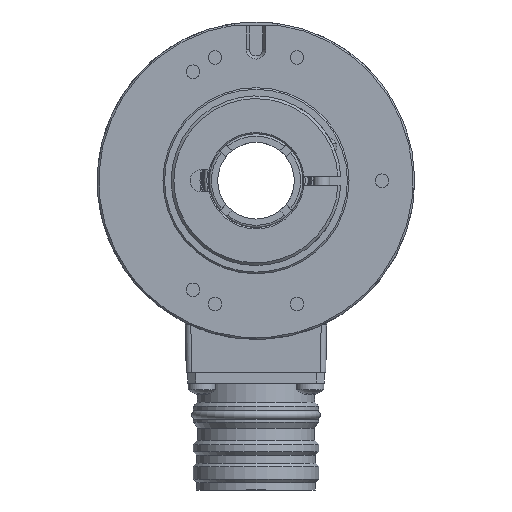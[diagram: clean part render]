
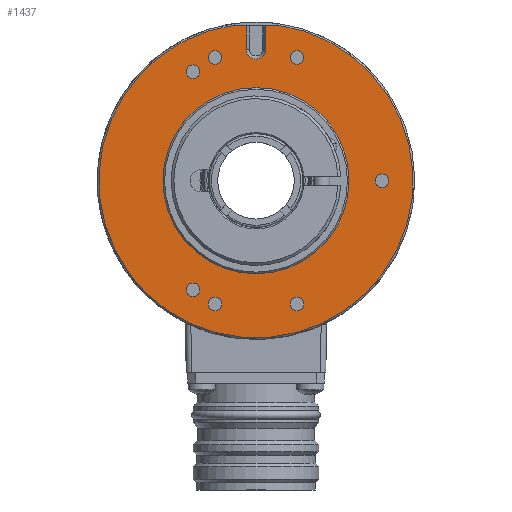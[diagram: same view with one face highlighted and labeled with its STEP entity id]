
A CAD part, left-side view. The second image highlights one B-rep face of the part: STEP entity #1437.
In plain terms, the highlighted planar face has unit normal (-1, 0, 0).
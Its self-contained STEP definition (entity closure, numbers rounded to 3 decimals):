
#1437 = ADVANCED_FACE( '', ( #3368, #3369, #3370, #3371, #3372, #3373, #3374, #3375, #3376 ), #3377, .T. );
#3368 = FACE_OUTER_BOUND( '', #8642, .T. );
#3369 = FACE_BOUND( '', #8643, .T. );
#3370 = FACE_BOUND( '', #8644, .T. );
#3371 = FACE_BOUND( '', #8645, .T. );
#3372 = FACE_BOUND( '', #8646, .T. );
#3373 = FACE_BOUND( '', #8647, .T. );
#3374 = FACE_BOUND( '', #8648, .T. );
#3375 = FACE_BOUND( '', #8649, .T. );
#3376 = FACE_BOUND( '', #8650, .T. );
#3377 = PLANE( '', #8651 );
#8642 = EDGE_LOOP( '', ( #16163, #16164, #16165, #16166, #16167, #16168, #16169, #16170 ) );
#8643 = EDGE_LOOP( '', ( #16171 ) );
#8644 = EDGE_LOOP( '', ( #16172 ) );
#8645 = EDGE_LOOP( '', ( #16173 ) );
#8646 = EDGE_LOOP( '', ( #16174 ) );
#8647 = EDGE_LOOP( '', ( #16175 ) );
#8648 = EDGE_LOOP( '', ( #16176 ) );
#8649 = EDGE_LOOP( '', ( #16177 ) );
#8650 = EDGE_LOOP( '', ( #16178 ) );
#8651 = AXIS2_PLACEMENT_3D( '', #16179, #16180, #16181 );
#16163 = ORIENTED_EDGE( '', *, *, #21126, .T. );
#16164 = ORIENTED_EDGE( '', *, *, #21127, .T. );
#16165 = ORIENTED_EDGE( '', *, *, #20062, .F. );
#16166 = ORIENTED_EDGE( '', *, *, #21128, .F. );
#16167 = ORIENTED_EDGE( '', *, *, #20171, .F. );
#16168 = ORIENTED_EDGE( '', *, *, #21129, .T. );
#16169 = ORIENTED_EDGE( '', *, *, #21130, .T. );
#16170 = ORIENTED_EDGE( '', *, *, #21131, .T. );
#16171 = ORIENTED_EDGE( '', *, *, #21132, .F. );
#16172 = ORIENTED_EDGE( '', *, *, #21133, .T. );
#16173 = ORIENTED_EDGE( '', *, *, #21134, .T. );
#16174 = ORIENTED_EDGE( '', *, *, #21135, .T. );
#16175 = ORIENTED_EDGE( '', *, *, #21136, .T. );
#16176 = ORIENTED_EDGE( '', *, *, #20398, .T. );
#16177 = ORIENTED_EDGE( '', *, *, #21137, .T. );
#16178 = ORIENTED_EDGE( '', *, *, #20202, .T. );
#16179 = CARTESIAN_POINT( '', ( 15., -0.002, 25.897 ) );
#16180 = DIRECTION( '', ( -1., 0., 0. ) );
#16181 = DIRECTION( '', ( 0., 1., 0. ) );
#20062 = EDGE_CURVE( '', #22615, #22610, #22617, .T. );
#20171 = EDGE_CURVE( '', #22800, #22796, #22802, .T. );
#20202 = EDGE_CURVE( '', #22853, #22853, #22854, .T. );
#20398 = EDGE_CURVE( '', #23179, #23179, #23180, .T. );
#21126 = EDGE_CURVE( '', #24294, #24295, #24296, .T. );
#21127 = EDGE_CURVE( '', #24295, #22610, #24297, .T. );
#21128 = EDGE_CURVE( '', #22796, #22615, #24298, .T. );
#21129 = EDGE_CURVE( '', #22800, #24299, #24300, .T. );
#21130 = EDGE_CURVE( '', #24299, #24301, #24302, .T. );
#21131 = EDGE_CURVE( '', #24301, #24294, #24303, .T. );
#21132 = EDGE_CURVE( '', #24304, #24304, #24305, .T. );
#21133 = EDGE_CURVE( '', #24306, #24306, #24307, .T. );
#21134 = EDGE_CURVE( '', #24308, #24308, #24309, .T. );
#21135 = EDGE_CURVE( '', #24310, #24310, #24311, .T. );
#21136 = EDGE_CURVE( '', #24312, #24312, #24313, .T. );
#21137 = EDGE_CURVE( '', #24314, #24314, #24315, .T. );
#22610 = VERTEX_POINT( '', #26706 );
#22615 = VERTEX_POINT( '', #26713 );
#22617 = LINE( '', #26716, #26717 );
#22796 = VERTEX_POINT( '', #27052 );
#22800 = VERTEX_POINT( '', #27058 );
#22802 = LINE( '', #27061, #27062 );
#22853 = VERTEX_POINT( '', #27144 );
#22854 = CIRCLE( '', #27145, 1.23 );
#23179 = VERTEX_POINT( '', #28008 );
#23180 = CIRCLE( '', #28009, 1.23 );
#24294 = VERTEX_POINT( '', #36642 );
#24295 = VERTEX_POINT( '', #36643 );
#24296 = LINE( '', #36644, #36645 );
#24297 = LINE( '', #36646, #36647 );
#24298 = CIRCLE( '', #36648, 1.78 );
#24299 = VERTEX_POINT( '', #36649 );
#24300 = LINE( '', #36650, #36651 );
#24301 = VERTEX_POINT( '', #36652 );
#24302 = LINE( '', #36653, #36654 );
#24303 = CIRCLE( '', #36655, 28.7 );
#24304 = VERTEX_POINT( '', #36656 );
#24305 = CIRCLE( '', #36657, 17. );
#24306 = VERTEX_POINT( '', #36658 );
#24307 = CIRCLE( '', #36659, 1.23 );
#24308 = VERTEX_POINT( '', #36660 );
#24309 = CIRCLE( '', #36661, 1.23 );
#24310 = VERTEX_POINT( '', #36662 );
#24311 = CIRCLE( '', #36663, 1.23 );
#24312 = VERTEX_POINT( '', #36664 );
#24313 = CIRCLE( '', #36665, 1.23 );
#24314 = VERTEX_POINT( '', #36666 );
#24315 = CIRCLE( '', #36667, 1.23 );
#26706 = CARTESIAN_POINT( '', ( 15., -1.782, 28.297 ) );
#26713 = CARTESIAN_POINT( '', ( 15., -1.782, 23.997 ) );
#26716 = CARTESIAN_POINT( '', ( 15., -1.782, 25.897 ) );
#26717 = VECTOR( '', #49012, 1000. );
#27052 = CARTESIAN_POINT( '', ( 15., 1.778, 23.997 ) );
#27058 = CARTESIAN_POINT( '', ( 15., 1.778, 28.297 ) );
#27061 = CARTESIAN_POINT( '', ( 15., 1.778, 25.897 ) );
#27062 = VECTOR( '', #49132, 1000. );
#27144 = CARTESIAN_POINT( '', ( 15., 10.435, -19.304 ) );
#27145 = AXIS2_PLACEMENT_3D( '', #49165, #49166, #49167 );
#28008 = CARTESIAN_POINT( '', ( 15., -8.565, -21.885 ) );
#28009 = AXIS2_PLACEMENT_3D( '', #49360, #49361, #49362 );
#36642 = CARTESIAN_POINT( '', ( 15., -4., 28.42 ) );
#36643 = CARTESIAN_POINT( '', ( 15., -4., 28.297 ) );
#36644 = CARTESIAN_POINT( '', ( 15., -4., 20.25 ) );
#36645 = VECTOR( '', #50125, 1000. );
#36646 = CARTESIAN_POINT( '', ( 15., -4.102, 28.297 ) );
#36647 = VECTOR( '', #50126, 1000. );
#36648 = AXIS2_PLACEMENT_3D( '', #50127, #50128, #50129 );
#36649 = CARTESIAN_POINT( '', ( 15., 4., 28.297 ) );
#36650 = CARTESIAN_POINT( '', ( 15., -4.102, 28.297 ) );
#36651 = VECTOR( '', #50130, 1000. );
#36652 = CARTESIAN_POINT( '', ( 15., 4., 28.42 ) );
#36653 = CARTESIAN_POINT( '', ( 15., 4., 20.25 ) );
#36654 = VECTOR( '', #50131, 1000. );
#36655 = AXIS2_PLACEMENT_3D( '', #50132, #50133, #50134 );
#36656 = CARTESIAN_POINT( '', ( 15., -14.722, 8.5 ) );
#36657 = AXIS2_PLACEMENT_3D( '', #50135, #50136, #50137 );
#36658 = CARTESIAN_POINT( '', ( 15., -8.565, 23.115 ) );
#36659 = AXIS2_PLACEMENT_3D( '', #50138, #50139, #50140 );
#36660 = CARTESIAN_POINT( '', ( 15., 6.435, 23.115 ) );
#36661 = AXIS2_PLACEMENT_3D( '', #50141, #50142, #50143 );
#36662 = CARTESIAN_POINT( '', ( 15., 10.435, 20.534 ) );
#36663 = AXIS2_PLACEMENT_3D( '', #50144, #50145, #50146 );
#36664 = CARTESIAN_POINT( '', ( 15., -24.065, 0.615 ) );
#36665 = AXIS2_PLACEMENT_3D( '', #50147, #50148, #50149 );
#36666 = CARTESIAN_POINT( '', ( 15., 6.435, -21.885 ) );
#36667 = AXIS2_PLACEMENT_3D( '', #50150, #50151, #50152 );
#49012 = DIRECTION( '', ( 0., 0., 1. ) );
#49132 = DIRECTION( '', ( 0., 0., -1. ) );
#49165 = CARTESIAN_POINT( '', ( 15., 11.5, -19.919 ) );
#49166 = DIRECTION( '', ( 1., 0., 0. ) );
#49167 = DIRECTION( '', ( 0., -0.866, 0.5 ) );
#49360 = CARTESIAN_POINT( '', ( 15., -7.5, -22.5 ) );
#49361 = DIRECTION( '', ( 1., 0., 0. ) );
#49362 = DIRECTION( '', ( 0., -0.866, 0.5 ) );
#50125 = DIRECTION( '', ( 0., 0., -1. ) );
#50126 = DIRECTION( '', ( 0., 1., 0. ) );
#50127 = CARTESIAN_POINT( '', ( 15., -0.002, 23.997 ) );
#50128 = DIRECTION( '', ( -1., 0., 0. ) );
#50129 = DIRECTION( '', ( 0., 1., 0. ) );
#50130 = DIRECTION( '', ( 0., 1., 0. ) );
#50131 = DIRECTION( '', ( 0., 0., 1. ) );
#50132 = CARTESIAN_POINT( '', ( 15., 0., 0. ) );
#50133 = DIRECTION( '', ( -1., 0., 0. ) );
#50134 = DIRECTION( '', ( 0., -0.866, 0.5 ) );
#50135 = CARTESIAN_POINT( '', ( 15., 0., 0. ) );
#50136 = DIRECTION( '', ( -1., 0., 0. ) );
#50137 = DIRECTION( '', ( 0., -0.866, 0.5 ) );
#50138 = CARTESIAN_POINT( '', ( 15., -7.5, 22.5 ) );
#50139 = DIRECTION( '', ( 1., 0., 0. ) );
#50140 = DIRECTION( '', ( 0., -0.866, 0.5 ) );
#50141 = CARTESIAN_POINT( '', ( 15., 7.5, 22.5 ) );
#50142 = DIRECTION( '', ( 1., 0., 0. ) );
#50143 = DIRECTION( '', ( 0., -0.866, 0.5 ) );
#50144 = CARTESIAN_POINT( '', ( 15., 11.5, 19.919 ) );
#50145 = DIRECTION( '', ( 1., 0., 0. ) );
#50146 = DIRECTION( '', ( 0., -0.866, 0.5 ) );
#50147 = CARTESIAN_POINT( '', ( 15., -23., 0. ) );
#50148 = DIRECTION( '', ( 1., 0., 0. ) );
#50149 = DIRECTION( '', ( 0., -0.866, 0.5 ) );
#50150 = CARTESIAN_POINT( '', ( 15., 7.5, -22.5 ) );
#50151 = DIRECTION( '', ( 1., 0., 0. ) );
#50152 = DIRECTION( '', ( 0., -0.866, 0.5 ) );
